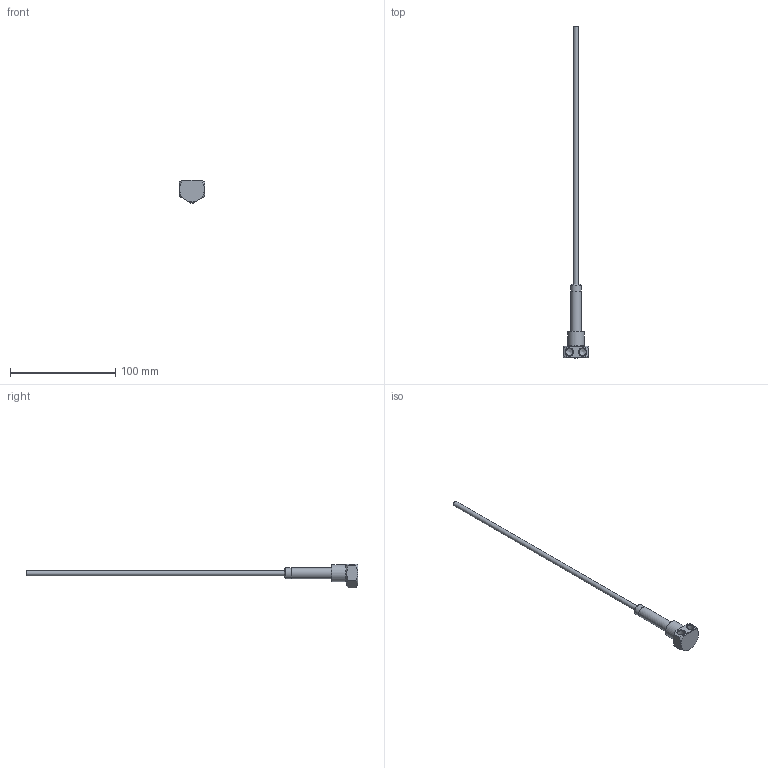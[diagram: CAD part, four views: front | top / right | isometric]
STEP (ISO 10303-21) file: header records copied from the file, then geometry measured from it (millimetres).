
FILE_DESCRIPTION(/* description */ (''),/* implementation_level */ '2;1');
FILE_NAME(/* name */ 'C:/Users/drich/Desktop/ET1816 v1.step',/* time_stamp */ '2020-01-15T19:50:22-06:00',/* author */ (''),/* organization */ (''),/* preprocessor_version */ 'ST-DEVELOPER v18',/* originating_system */ 'Autodesk Translation Framework v8.12.0.6',/* authorisation */ '');
FILE_SCHEMA (('AUTOMOTIVE_DESIGN { 1 0 10303 214 3 1 1 }'));
Length unit declared in the file: inch
Products named in the file (4): ET1816; ET1414H; SSPN18-2; HF187T-12
Assembly tree (3 placements, depth 2):
  ET1816
    ET1414H
    SSPN18-2
    HF187T-12
Bounding box: 23.77 x 314.96 x 22.17 mm (x, y, z)
Volume: 9329.1 mm3; surface area: 14847 mm2
Topology: 3 solids, 3 shells, 50 faces, 127 edges, 87 vertices
Faces by surface type: plane 22, cylinder 13, cone 10, torus 5
Full cylindrical faces by diameter (mm): 4.242 x1, 4.75 x1, 5.474 x1, 6.243 x1, 6.401 x1, 6.697 x2, 6.833 x1, 8.707 x1, 10.262 x2, 10.312 x1, 15.875 x1
Entity records: 1669 total; most frequent: CARTESIAN_POINT 301, DIRECTION 297, ORIENTED_EDGE 250, AXIS2_PLACEMENT_3D 131, EDGE_CURVE 125, VERTEX_POINT 87, CIRCLE 69, EDGE_LOOP 60
